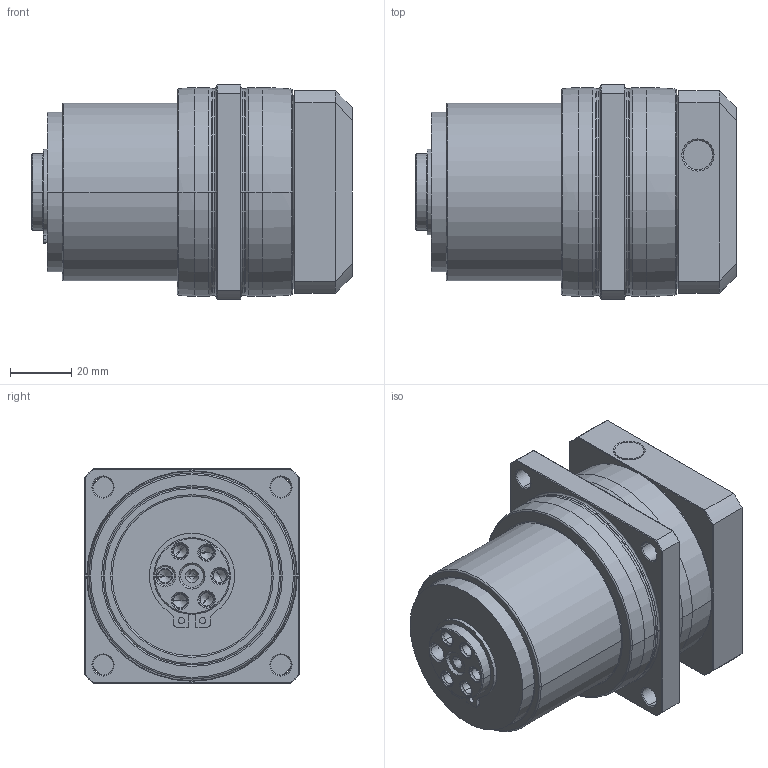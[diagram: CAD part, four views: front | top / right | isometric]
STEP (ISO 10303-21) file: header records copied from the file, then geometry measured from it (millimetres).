
FILE_DESCRIPTION((''),'2;1');
FILE_NAME('PL070_1ST_14-P0411300101_ASM','2016-05-30T',('d00435'),(''),'PRO/ENGINEER BY PARAMETRIC TECHNOLOGY CORPORATION, 2008410','PRO/ENGINEER BY PARAMETRIC TECHNOLOGY CORPORATION, 2008410','');
FILE_SCHEMA(('CONFIG_CONTROL_DESIGN'));
Length unit declared in the file: millimetre
Products named in the file (8): P0272200001; P1352200201; P0366200001; 22802000015; P0503300005; P0941202001; P0411300101; PL070_1ST_14-P0411300101_ASM
Assembly tree (7 placements, depth 2):
  PL070_1ST_14-P0411300101_ASM
    P0272200001
    P1352200201
    P0366200001
    22802000015
    P0503300005
    P0941202001
    P0411300101
Bounding box: 104.5 x 70 x 70 mm (x, y, z)
Volume: 332342 mm3; surface area: 77990.7 mm2
Topology: 7 solids, 18 shells, 396 faces, 916 edges, 548 vertices
Faces by surface type: cylinder 130, cone 108, plane 86, torus 56, bspline 16
Entity records: 15746 total; most frequent: CARTESIAN_POINT 6547, DIRECTION 2055, ORIENTED_EDGE 1744, EDGE_CURVE 894, AXIS2_PLACEMENT_3D 867, VERTEX_POINT 548, CIRCLE 466, EDGE_LOOP 450
